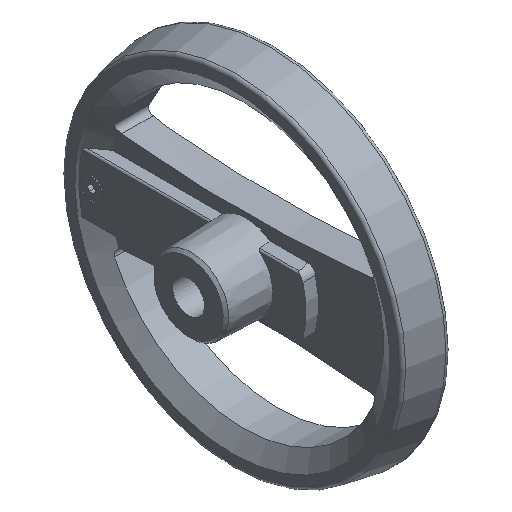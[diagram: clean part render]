
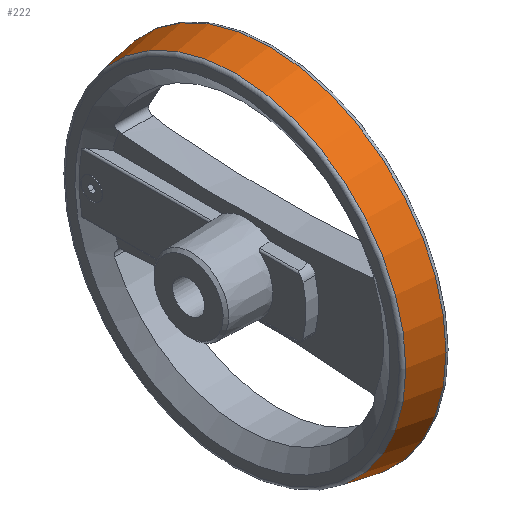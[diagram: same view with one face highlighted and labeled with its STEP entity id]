
A CAD part, isometric view. The second image highlights one B-rep face of the part: STEP entity #222.
In plain terms, the highlighted conical face has half-angle 9.986 degrees and reference radius 96.36 mm.
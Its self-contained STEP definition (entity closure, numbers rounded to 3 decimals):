
#222 = ADVANCED_FACE( '', ( #393, #394 ), #395, .T. );
#393 = FACE_OUTER_BOUND( '', #643, .T. );
#394 = FACE_BOUND( '', #644, .T. );
#395 = CONICAL_SURFACE( '', #645, 96.36, 0.174 );
#643 = EDGE_LOOP( '', ( #1172 ) );
#644 = EDGE_LOOP( '', ( #1173 ) );
#645 = AXIS2_PLACEMENT_3D( '', #1174, #1175, #1176 );
#1172 = ORIENTED_EDGE( '', *, *, #1669, .F. );
#1173 = ORIENTED_EDGE( '', *, *, #1670, .T. );
#1174 = CARTESIAN_POINT( '', ( 26.353, 0., 0. ) );
#1175 = DIRECTION( '', ( 1., 0., 0. ) );
#1176 = DIRECTION( '', ( 0., 0., -1. ) );
#1669 = EDGE_CURVE( '', #2006, #2006, #2007, .T. );
#1670 = EDGE_CURVE( '', #2008, #2008, #2009, .T. );
#2006 = VERTEX_POINT( '', #2836 );
#2007 = CIRCLE( '', #2837, 99.76 );
#2008 = VERTEX_POINT( '', #2838 );
#2009 = CIRCLE( '', #2839, 96.36 );
#2836 = CARTESIAN_POINT( '', ( 45.663, 0., -99.76 ) );
#2837 = AXIS2_PLACEMENT_3D( '', #3238, #3239, #3240 );
#2838 = CARTESIAN_POINT( '', ( 26.353, 0., -96.36 ) );
#2839 = AXIS2_PLACEMENT_3D( '', #3241, #3242, #3243 );
#3238 = CARTESIAN_POINT( '', ( 45.663, 0., 0. ) );
#3239 = DIRECTION( '', ( 1., 0., 0. ) );
#3240 = DIRECTION( '', ( 0., 0., -1. ) );
#3241 = CARTESIAN_POINT( '', ( 26.353, 0., 0. ) );
#3242 = DIRECTION( '', ( 1., 0., 0. ) );
#3243 = DIRECTION( '', ( 0., 0., -1. ) );
